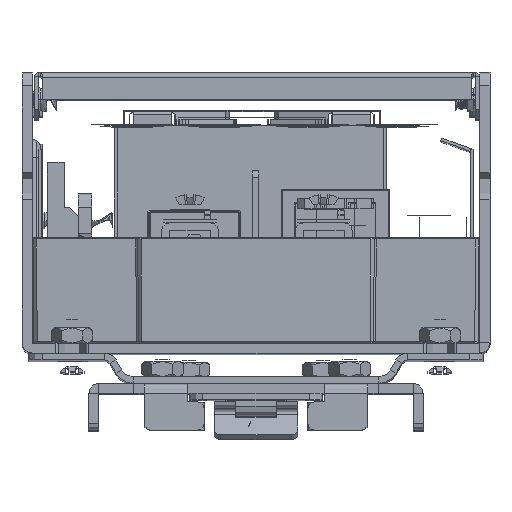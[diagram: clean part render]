
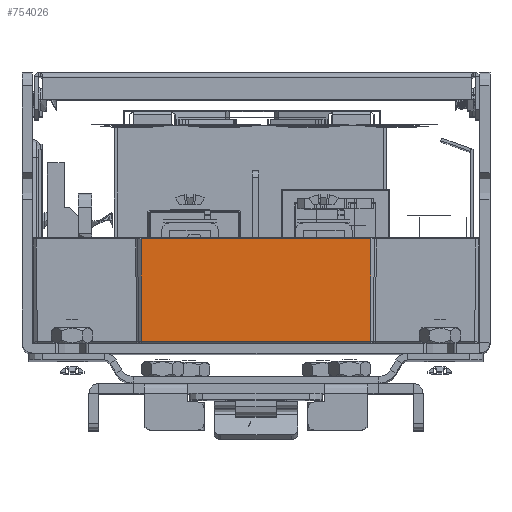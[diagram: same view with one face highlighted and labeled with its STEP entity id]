
A CAD part, top view. The second image highlights one B-rep face of the part: STEP entity #754026.
In plain terms, the highlighted planar face has unit normal (0, -0.009, 1).
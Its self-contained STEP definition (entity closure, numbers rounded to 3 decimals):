
#751281=CARTESIAN_POINT('',(97.198,17.098,
100.048));
#751303=DIRECTION('',(-0.009,-1.,
-0.009));
#751304=VECTOR('',#751303,15.302);
#751305=CARTESIAN_POINT('',(97.198,17.098,
100.048));
#751306=LINE('',#751305,#751304);
#751310=DIRECTION('',(-1.,0.,0.));
#751311=VECTOR('',#751310,34.129);
#751312=CARTESIAN_POINT('',(97.065,1.797,
99.915));
#751313=LINE('',#751312,#751311);
#751317=DIRECTION('',(-0.009,1.,0.009));
#751318=VECTOR('',#751317,15.302);
#751319=CARTESIAN_POINT('',(62.935,1.797,
99.915));
#751320=LINE('',#751319,#751318);
#751339=DIRECTION('',(-1.,0.,0.));
#751340=VECTOR('',#751339,34.397);
#751341=CARTESIAN_POINT('',(97.198,17.098,
100.048));
#751342=LINE('',#751341,#751340);
#752704=CARTESIAN_POINT('',(97.065,1.797,
99.915));
#752705=VERTEX_POINT('',#752704);
#752706=CARTESIAN_POINT('',(62.935,1.797,
99.915));
#752707=VERTEX_POINT('',#752706);
#752794=VERTEX_POINT('',#751281);
#752801=CARTESIAN_POINT('',(62.802,17.098,
100.048));
#752802=VERTEX_POINT('',#752801);
#754013=CARTESIAN_POINT('',(80.,9.448,
99.981));
#754014=DIRECTION('',(0.,-0.009,1.));
#754015=DIRECTION('',(1.,0.,0.));
#754016=AXIS2_PLACEMENT_3D('',#754013,#754014,#754015);
#754017=PLANE('',#754016);
#754019=ORIENTED_EDGE('',*,*,#754018,.F.);
#754020=ORIENTED_EDGE('',*,*,#754008,.T.);
#754021=ORIENTED_EDGE('',*,*,#753372,.T.);
#754023=ORIENTED_EDGE('',*,*,#754022,.T.);
#754024=EDGE_LOOP('',(#754019,#754020,#754021,#754023));
#754025=FACE_OUTER_BOUND('',#754024,.F.);
#753372=EDGE_CURVE('',#752705,#752707,#751313,.T.);
#754008=EDGE_CURVE('',#752794,#752705,#751306,.T.);
#754018=EDGE_CURVE('',#752794,#752802,#751342,.T.);
#754022=EDGE_CURVE('',#752707,#752802,#751320,.T.);
#754026=ADVANCED_FACE('',(#754025),#754017,.T.);
